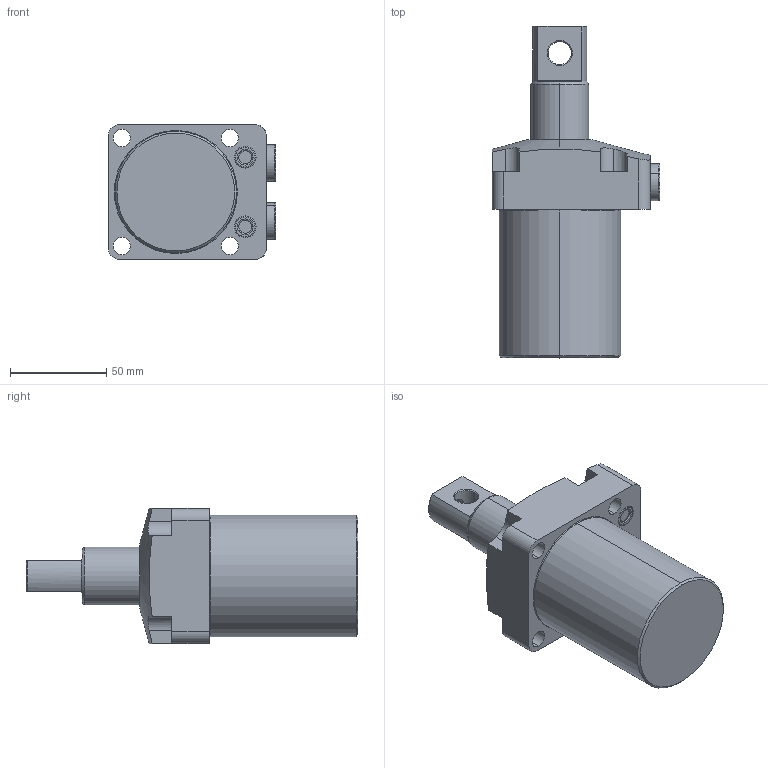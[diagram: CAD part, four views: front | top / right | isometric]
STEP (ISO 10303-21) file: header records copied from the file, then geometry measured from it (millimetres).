
FILE_DESCRIPTION(/* description */ (''),/* implementation_level */ '2;1');
FILE_NAME(/* name */ 'TRC10-P.stp',/* time_stamp */ '2025-01-04T09:17:53+08:00',/* author */ (''),/* organization */ (''),/* preprocessor_version */ 'ST-DEVELOPER v16.7',/* originating_system */ 'SIEMENS PLM Software NX 12.0',/* authorisation */ '');
FILE_SCHEMA (('AUTOMOTIVE_DESIGN { 1 0 10303 214 3 1 1 1 }'));
Length unit declared in the file: millimetre
Products named in the file (4): TRC10-P-03; TRC10-P-02; TRC10-P-01; TRC10-P_stp
Assembly tree (4 placements, depth 2):
  TRC10-P_stp
    TRC10-P-01
    TRC10-P-02
    TRC10-P-03  x2
Bounding box: 86.8 x 172 x 70 mm (x, y, z)
Volume: 426154.2 mm3; surface area: 51741.3 mm2
Topology: 4 solids, 6 shells, 171 faces, 397 edges, 250 vertices
Faces by surface type: cylinder 67, plane 56, cone 26, torus 22
Entity records: 4607 total; most frequent: CARTESIAN_POINT 966, DIRECTION 797, ORIENTED_EDGE 702, EDGE_CURVE 351, AXIS2_PLACEMENT_3D 329, VERTEX_POINT 222, EDGE_LOOP 175, CIRCLE 175
